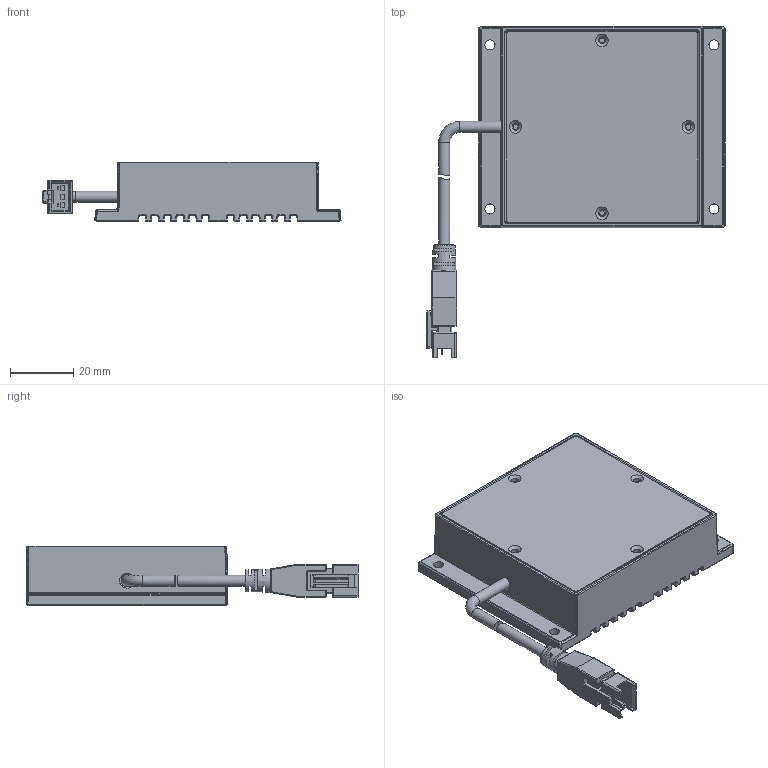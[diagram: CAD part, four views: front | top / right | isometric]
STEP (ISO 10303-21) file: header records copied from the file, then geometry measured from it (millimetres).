
FILE_DESCRIPTION (( 'STEP AP203' ), '1' );
FILE_NAME ('CST-HFS5050-蚾饜极.STEP', '2021-06-02T00:47:11', ( '' ), ( '' ), 'SwSTEP 2.0', 'SolidWorks 2018', '' );
FILE_SCHEMA (( 'CONFIG_CONTROL_DESIGN' ));
Length unit declared in the file: millimetre
Products named in the file (1): CST-HFS5050-蚾饜极
Bounding box: 94.44 x 105.22 x 19 mm (x, y, z)
Surface area: 21481.5 mm2 (no closed solid volume)
Topology: 0 solids, 5 shells, 750 faces, 1999 edges, 1142 vertices
Faces by surface type: cylinder 369, plane 224, sphere 82, bspline 66, cone 5, torus 4
Full cylindrical faces by diameter (mm): 2.3 x4, 3.2 x4, 3.5 x3
Entity records: 23868 total; most frequent: CARTESIAN_POINT 6409, DIRECTION 3785, ORIENTED_EDGE 3390, EDGE_CURVE 1908, AXIS2_PLACEMENT_3D 1389, VERTEX_POINT 1104, LINE 1007, VECTOR 1007
